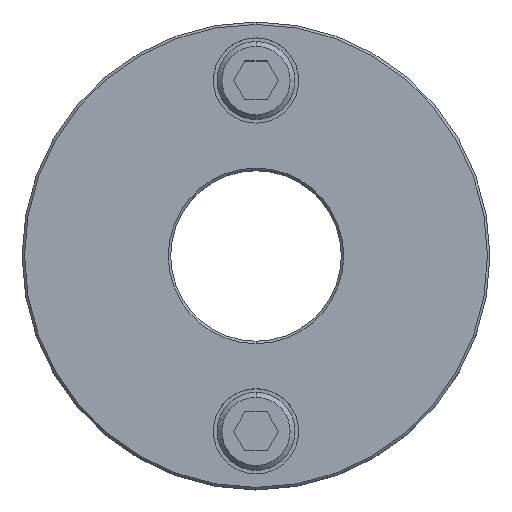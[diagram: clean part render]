
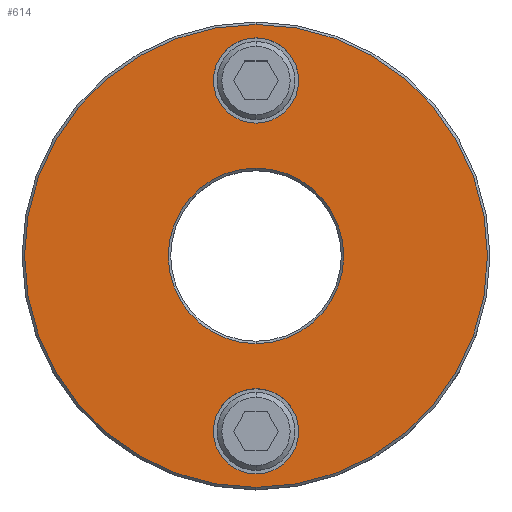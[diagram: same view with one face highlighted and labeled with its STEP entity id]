
A CAD part, top view. The second image highlights one B-rep face of the part: STEP entity #614.
In plain terms, the highlighted planar face has unit normal (0, 0, 1).
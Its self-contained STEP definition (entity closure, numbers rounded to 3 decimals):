
#105=VERTEX_POINT(' ',#106);
#106=CARTESIAN_POINT('',(0.,27.25,20.));
#107=VERTEX_POINT(' ',#108);
#108=CARTESIAN_POINT('',(0.,44.75,20.));
#113=VERTEX_POINT(' ',#114);
#114=CARTESIAN_POINT('',(0.,-44.75,20.));
#115=VERTEX_POINT(' ',#116);
#116=CARTESIAN_POINT('',(0.,-27.25,20.));
#123=VERTEX_POINT(' ',#124);
#124=CARTESIAN_POINT('',(0.,47.5,20.));
#125=VERTEX_POINT(' ',#126);
#126=CARTESIAN_POINT('',(0.,-47.5,20.));
#129=VERTEX_POINT(' ',#130);
#130=CARTESIAN_POINT('',(0.,-18.,20.));
#131=VERTEX_POINT(' ',#132);
#132=CARTESIAN_POINT('',(0.,18.,20.));
#221=CIRCLE('',#222,8.75);
#222=AXIS2_PLACEMENT_3D('',#223,#224,#225);
#223=CARTESIAN_POINT('',(0.,36.,20.));
#224=DIRECTION('',(0.,0.,-1.));
#225=DIRECTION('',(-1.,0.,0.));
#226=EDGE_CURVE(' ',#105,#107,#221,.F.);
#243=CIRCLE('',#244,8.75);
#244=AXIS2_PLACEMENT_3D('',#245,#246,#247);
#245=CARTESIAN_POINT('',(0.,36.,20.));
#246=DIRECTION('',(0.,0.,-1.));
#247=DIRECTION('',(1.,0.,0.));
#248=EDGE_CURVE(' ',#107,#105,#243,.F.);
#255=CIRCLE('',#256,8.75);
#256=AXIS2_PLACEMENT_3D('',#257,#258,#259);
#257=CARTESIAN_POINT('',(0.,-36.,20.));
#258=DIRECTION('',(0.,0.,-1.));
#259=DIRECTION('',(-1.,0.,0.));
#260=EDGE_CURVE(' ',#113,#115,#255,.F.);
#277=CIRCLE('',#278,8.75);
#278=AXIS2_PLACEMENT_3D('',#279,#280,#281);
#279=CARTESIAN_POINT('',(0.,-36.,20.));
#280=DIRECTION('',(0.,0.,-1.));
#281=DIRECTION('',(1.,0.,0.));
#282=EDGE_CURVE(' ',#115,#113,#277,.F.);
#294=CIRCLE('',#295,47.5);
#295=AXIS2_PLACEMENT_3D('',#296,#297,#298);
#296=CARTESIAN_POINT('',(0.,0.,20.));
#297=DIRECTION('',(0.,0.,1.));
#298=DIRECTION('',(-1.,0.,0.));
#299=EDGE_CURVE(' ',#123,#125,#294,.F.);
#317=CIRCLE('',#318,47.5);
#318=AXIS2_PLACEMENT_3D('',#319,#320,#321);
#319=CARTESIAN_POINT('',(0.,0.,20.));
#320=DIRECTION('',(0.,0.,1.));
#321=DIRECTION('',(1.,0.,0.));
#322=EDGE_CURVE(' ',#125,#123,#317,.F.);
#323=CIRCLE('',#324,18.);
#324=AXIS2_PLACEMENT_3D('',#325,#326,#327);
#325=CARTESIAN_POINT('',(0.,0.,20.));
#326=DIRECTION('',(0.,0.,-1.));
#327=DIRECTION('',(1.,0.,0.));
#328=EDGE_CURVE(' ',#131,#129,#323,.F.);
#329=CIRCLE('',#330,18.);
#330=AXIS2_PLACEMENT_3D('',#331,#332,#333);
#331=CARTESIAN_POINT('',(0.,0.,20.));
#332=DIRECTION('',(0.,0.,-1.));
#333=DIRECTION('',(-1.,0.,0.));
#334=EDGE_CURVE(' ',#129,#131,#329,.F.);
#593=ORIENTED_EDGE('',*,*,#299,.F.);
#594=ORIENTED_EDGE('',*,*,#322,.F.);
#595=EDGE_LOOP('',(#593,#594));
#596=FACE_OUTER_BOUND('',#595,.T.);
#597=ORIENTED_EDGE('',*,*,#328,.F.);
#598=ORIENTED_EDGE('',*,*,#334,.F.);
#599=EDGE_LOOP('',(#597,#598));
#600=FACE_BOUND('',#599,.T.);
#601=ORIENTED_EDGE('',*,*,#282,.F.);
#602=ORIENTED_EDGE('',*,*,#260,.F.);
#603=EDGE_LOOP('',(#601,#602));
#604=FACE_BOUND('',#603,.T.);
#605=ORIENTED_EDGE('',*,*,#248,.F.);
#606=ORIENTED_EDGE('',*,*,#226,.F.);
#607=EDGE_LOOP('',(#605,#606));
#608=FACE_BOUND('',#607,.T.);
#609=PLANE('',#610);
#610=AXIS2_PLACEMENT_3D('',#611,#612,#613);
#611=CARTESIAN_POINT('',(48.,0.,20.));
#612=DIRECTION('',(0.,0.,1.));
#613=DIRECTION('',(0.,1.,0.));
#614=ADVANCED_FACE('',(#596,#600,#604,#608),#609,.T.);
